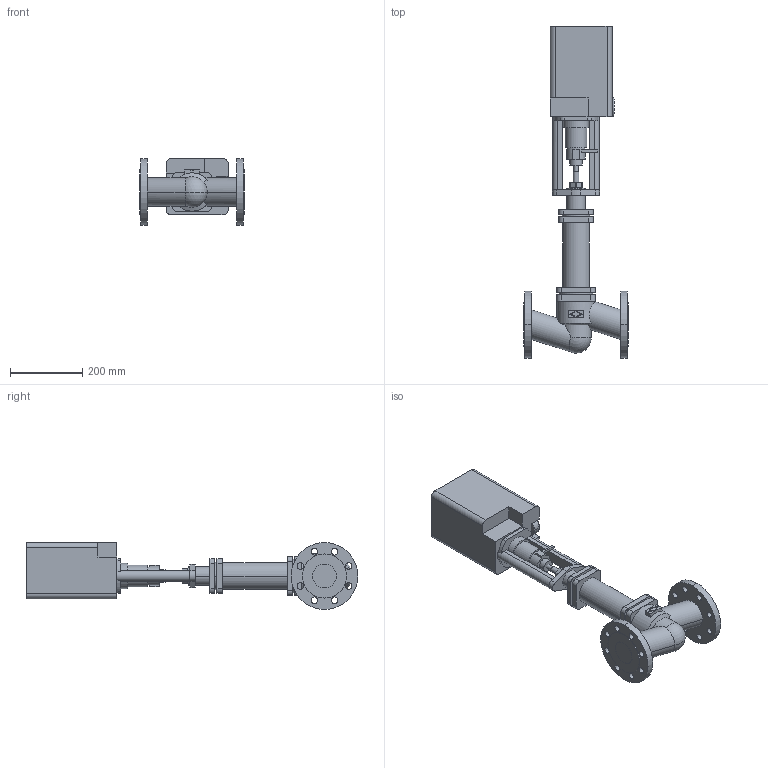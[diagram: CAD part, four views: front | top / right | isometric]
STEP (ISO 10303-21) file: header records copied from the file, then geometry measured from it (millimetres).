
FILE_DESCRIPTION(('CoCreate Modeling STEP Export'),'2;1');
FILE_NAME('c000002095.stp','2011-10-11T12:36:48',(''),(''),'CoCreate Modeling STEP processor for AP214 (Solid Model)','CoCreate Modeling 17.0 01-Apr-2010 (C) Parametric Technology GmbH','');
FILE_SCHEMA(('AUTOMOTIVE_DESIGN { 1 0 10303 214 1 1 1 1 }'));
Length unit declared in the file: millimetre
Products named in the file (2): 1; 2
Bounding box: 290 x 918 x 185 mm (x, y, z)
Volume: 11505830.4 mm3; surface area: 632307.4 mm2
Topology: 2 solids, 2 shells, 242 faces, 619 edges, 409 vertices
Faces by surface type: cylinder 121, plane 109, sphere 6, torus 4, cone 2
Entity records: 9056 total; most frequent: CARTESIAN_POINT 1435, ORIENTED_EDGE 1234, DIRECTION 1092, EDGE_CURVE 617, VERTEX_POINT 409, AXIS2_PLACEMENT_3D 381, VECTOR 330, LINE 330
